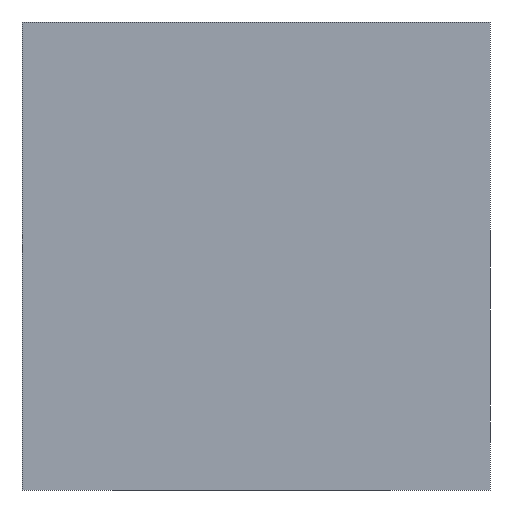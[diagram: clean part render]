
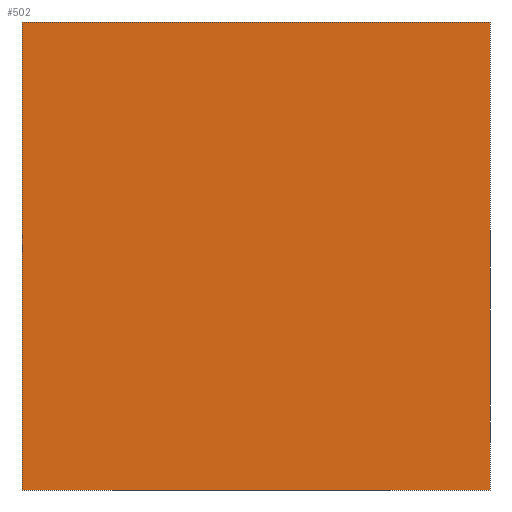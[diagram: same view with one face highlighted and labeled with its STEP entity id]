
A CAD part, front view. The second image highlights one B-rep face of the part: STEP entity #502.
In plain terms, the highlighted planar face has unit normal (0, -1, 0).
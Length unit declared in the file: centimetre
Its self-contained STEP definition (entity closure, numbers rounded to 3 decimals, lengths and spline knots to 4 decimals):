
#16 = CARTESIAN_POINT ( 'NONE',  ( 0., 0., 1000. ) ) ;
#21 = CARTESIAN_POINT ( 'NONE',  ( 0., 0., 0. ) ) ;
#47 = VERTEX_POINT ( 'NONE', #362 ) ;
#54 = VECTOR ( 'NONE', #366, 100. ) ;
#77 = VERTEX_POINT ( 'NONE', #16 ) ;
#92 = CARTESIAN_POINT ( 'NONE',  ( 0., 0., 1000. ) ) ;
#97 = PLANE ( 'NONE',  #209 ) ;
#113 = ORIENTED_EDGE ( 'NONE', *, *, #356, .T. ) ;
#154 = CARTESIAN_POINT ( 'NONE',  ( 0., 0., 1000. ) ) ;
#155 = EDGE_CURVE ( 'NONE', #77, #274, #288, .T. ) ;
#172 = CARTESIAN_POINT ( 'NONE',  ( 0., 0., 1000. ) ) ;
#188 = CARTESIAN_POINT ( 'NONE',  ( 1000., 0., 1000. ) ) ;
#200 = VECTOR ( 'NONE', #432, 100. ) ;
#205 = DIRECTION ( 'NONE',  ( 0., 1., 0. ) ) ;
#209 = AXIS2_PLACEMENT_3D ( 'NONE', #172, #205, #250 ) ;
#223 = LINE ( 'NONE', #21, #420 ) ;
#226 = LINE ( 'NONE', #188, #239 ) ;
#239 = VECTOR ( 'NONE', #391, 100. ) ;
#241 = VERTEX_POINT ( 'NONE', #339 ) ;
#250 = DIRECTION ( 'NONE',  ( 0., 0., 1. ) ) ;
#274 = VERTEX_POINT ( 'NONE', #458 ) ;
#288 = LINE ( 'NONE', #92, #54 ) ;
#302 = EDGE_CURVE ( 'NONE', #241, #47, #223, .T. ) ;
#313 = ORIENTED_EDGE ( 'NONE', *, *, #413, .F. ) ;
#337 = DIRECTION ( 'NONE',  ( 1., 0., 0. ) ) ;
#339 = CARTESIAN_POINT ( 'NONE',  ( 0., 0., 0. ) ) ;
#356 = EDGE_CURVE ( 'NONE', #77, #241, #423, .T. ) ;
#362 = CARTESIAN_POINT ( 'NONE',  ( 1000., 0., 0. ) ) ;
#366 = DIRECTION ( 'NONE',  ( 1., 0., 0. ) ) ;
#391 = DIRECTION ( 'NONE',  ( 0., 0., -1. ) ) ;
#392 = ORIENTED_EDGE ( 'NONE', *, *, #302, .T. ) ;
#400 = EDGE_LOOP ( 'NONE', ( #392, #313, #437, #113 ) ) ;
#411 = FACE_OUTER_BOUND ( 'NONE', #400, .T. ) ;
#413 = EDGE_CURVE ( 'NONE', #274, #47, #226, .T. ) ;
#420 = VECTOR ( 'NONE', #337, 100. ) ;
#423 = LINE ( 'NONE', #154, #200 ) ;
#432 = DIRECTION ( 'NONE',  ( 0., 0., -1. ) ) ;
#437 = ORIENTED_EDGE ( 'NONE', *, *, #155, .F. ) ;
#458 = CARTESIAN_POINT ( 'NONE',  ( 1000., 0., 1000. ) ) ;
#502 = ADVANCED_FACE ( 'NONE', ( #411 ), #97, .F. ) ;
